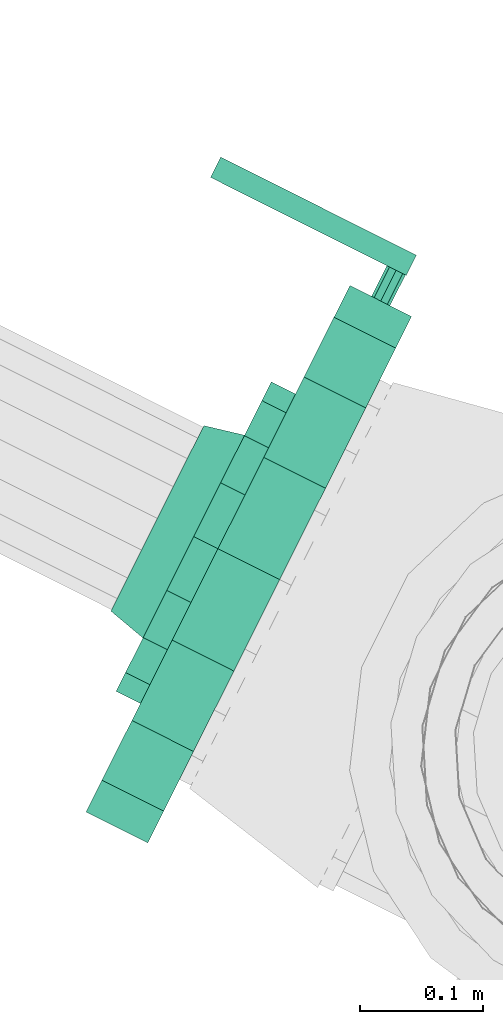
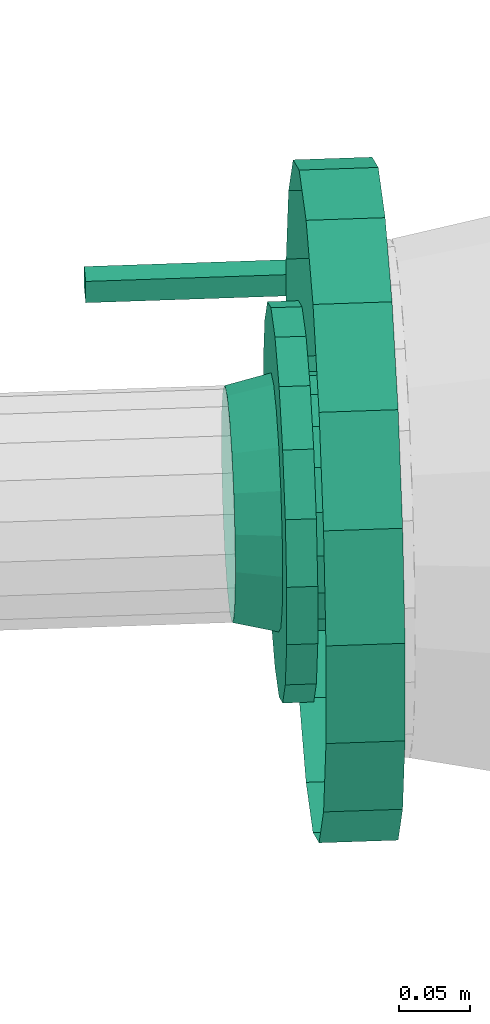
# One storey, part 75 of 152: 1 flow controller, 1 flow fitting.
"""IFC2X3 building model written with IfcOpenShell, lengths in metres."""

import ifcopenshell
import ifcopenshell.guid

model = None  # the IFC model being written
_history = None  # IfcOwnerHistory: only IFC2X3 demands one
_inside = {}  # id of a spatial element -> (the spatial element, [elements in it])
_under = {}  # id of a project, library or spatial element -> (it, [spatial elements below it])
_declared = {}  # id of a project -> (the project, [libraries it declares])
_typed = {}  # id of a type object -> (the type object, [elements of that type])
_made_of = {}  # id of a material, layer set ... -> (it, [elements and type objects made of it])


def new_model(schema):
    """Start an empty IFC model of exactly this schema.

    Asked for "IFC4X3", IfcOpenShell would pick the latest addendum, in which some entities
    have other attributes; the version numbers below select the first issue.
    IFC2X3 requires an IfcOwnerHistory on every rooted entity: one is made here for all.
    """
    global model, _history
    if schema == "IFC4X3":
        model = ifcopenshell.file(schema_version=(4, 3, 0, 0))
    else:
        model = ifcopenshell.file(schema=schema)
    _inside.clear()
    _under.clear()
    _declared.clear()
    _typed.clear()
    _made_of.clear()
    _history = None
    if model.schema == "IFC2X3":
        org = make("IfcOrganization", Name="unknown")
        user = make(
            "IfcPersonAndOrganization",
            ThePerson=make("IfcPerson", FamilyName="unknown"),
            TheOrganization=org,
        )
        app = make(
            "IfcApplication",
            ApplicationDeveloper=org,
            Version="unknown",
            ApplicationFullName="unknown",
            ApplicationIdentifier="unknown",
        )
        _history = make(
            "IfcOwnerHistory",
            OwningUser=user,
            OwningApplication=app,
            ChangeAction="ADDED",
            CreationDate=0,
        )
    return model


def make(cls, **values):
    """One entity of the class cls with the attributes given. An attribute that is None is left unset."""
    return model.create_entity(
        cls, **{name: value for name, value in values.items() if value is not None}
    )


def rooted(cls, **values):
    """An entity with a GlobalId (a new one), such as an element, a storey or a relation."""
    return make(cls, GlobalId=ifcopenshell.guid.new(), OwnerHistory=_history, **values)


def si_unit(unit_type, name, prefix=None):
    """IfcSIUnit, for example si_unit("LENGTHUNIT", "METRE", prefix="MILLI")."""
    return make("IfcSIUnit", UnitType=unit_type, Prefix=prefix, Name=name)


def derived_unit(unit_type, elements):
    """IfcDerivedUnit: a product of units, each with its exponent."""
    return make(
        "IfcDerivedUnit",
        Elements=[
            make("IfcDerivedUnitElement", Unit=unit, Exponent=power)
            for unit, power in elements
        ],
        UnitType=unit_type,
    )


def assignment(units):
    """IfcUnitAssignment: the units of a project."""
    return None if units is None else make("IfcUnitAssignment", Units=units)


def point(xyz):
    """IfcCartesianPoint."""
    return None if xyz is None else make("IfcCartesianPoint", Coordinates=xyz)


def direction(xyz):
    """IfcDirection."""
    return None if xyz is None else make("IfcDirection", DirectionRatios=xyz)


def frame(location, z_axis=None, x_axis=None):
    """IfcAxis2Placement3D, a coordinate frame: its origin and axes. An axis left out is left unset."""
    return make(
        "IfcAxis2Placement3D",
        Location=point(location),
        Axis=direction(z_axis),
        RefDirection=direction(x_axis),
    )


def origin():
    """The frame at (0, 0, 0) with its axes left unset."""
    return frame((0.0, 0.0, 0.0))


def place(relative_to, where):
    """IfcLocalPlacement: puts the frame where relative to a parent placement (None: the world)."""
    return make(
        "IfcLocalPlacement", PlacementRelTo=relative_to, RelativePlacement=where
    )


def context(
    kind, dimensions, precision=None, world=None, true_north=None, identifier=None
):
    """IfcGeometricRepresentationContext, for example the 3D "Model" context."""
    return make(
        "IfcGeometricRepresentationContext",
        ContextIdentifier=identifier,
        ContextType=kind,
        CoordinateSpaceDimension=dimensions,
        Precision=precision,
        WorldCoordinateSystem=world,
        TrueNorth=true_north,
    )


def subcontext(parent, identifier, kind, view, scale=None):
    """IfcGeometricRepresentationSubContext, for example "Body" below "Model"."""
    return make(
        "IfcGeometricRepresentationSubContext",
        ContextIdentifier=identifier,
        ContextType=kind,
        ParentContext=parent,
        TargetScale=scale,
        TargetView=view,
    )


def project(units=None, contexts=None):
    """IfcProject with its units and contexts."""
    return rooted(
        "IfcProject",
        Name="project",
        RepresentationContexts=contexts,
        UnitsInContext=assignment(units),
    )


def spatial(cls, under=None, at=None, **own):
    """A site, building, storey or space (cls), placed at a placement, below another one or the project."""
    s = rooted(cls, ObjectPlacement=at, **own)
    if under is not None:
        _under.setdefault(under.id(), (under, []))[1].append(s)
    return s


def faces_of(points, faces, orient=None, outer=None):
    """IfcFace entities. A face is a list of loops; a loop is a list of indices into points, from 0.

    orient and outer hold one flag for each loop. By default every Orientation is true, the
    first loop of a face is its IfcFaceOuterBound and the others are IfcFaceBound.
    """
    made = []
    for i, loops in enumerate(faces):
        bounds = []
        for j, loop in enumerate(loops):
            is_outer = j == 0 if outer is None else outer[i][j]
            bounds.append(
                make(
                    "IfcFaceOuterBound" if is_outer else "IfcFaceBound",
                    Bound=make("IfcPolyLoop", Polygon=[points[k] for k in loop]),
                    Orientation=True if orient is None else orient[i][j],
                )
            )
        made.append(make("IfcFace", Bounds=bounds))
    return made


def face_set(faces, orient=None, outer=None):
    """The faces of one IfcConnectedFaceSet. surface_model builds it on its shared points."""
    return ("IfcConnectedFaceSet", faces, orient, outer)


def surface_model(cls, points, shells):
    """IfcFaceBasedSurfaceModel or IfcShellBasedSurfaceModel (cls): surfaces that need not close."""
    shared = [point(p) for p in points]
    made = [make(c, CfsFaces=faces_of(shared, fs, o, b)) for c, fs, o, b in shells]
    if cls == "IfcFaceBasedSurfaceModel":
        return make(cls, FbsmFaces=made)
    return make(cls, SbsmBoundary=made)


def shape(context_of_items, identifier, shape_type, items):
    """IfcShapeRepresentation: the items that make up one representation, for example the "Body"."""
    return make(
        "IfcShapeRepresentation",
        ContextOfItems=context_of_items,
        RepresentationIdentifier=identifier,
        RepresentationType=shape_type,
        Items=items,
    )


def source(mapping_origin, context_of_items, identifier, shape_type, items):
    """IfcRepresentationMap: a shape defined once, which mapped items show again and again."""
    return make(
        "IfcRepresentationMap",
        MappingOrigin=mapping_origin,
        MappedRepresentation=shape(context_of_items, identifier, shape_type, items),
    )


def transform(
    local_origin,
    x_axis=None,
    y_axis=None,
    z_axis=None,
    scale=None,
    scale2=None,
    scale3=None,
    uniform=True,
):
    """IfcCartesianTransformationOperator3D, or its non-uniform kind. x_axis, y_axis, z_axis: its Axis1, 2, 3."""
    if uniform:
        return make(
            "IfcCartesianTransformationOperator3D",
            Axis1=direction(x_axis),
            Axis2=direction(y_axis),
            LocalOrigin=point(local_origin),
            Scale=scale,
            Axis3=direction(z_axis),
        )
    return make(
        "IfcCartesianTransformationOperator3DnonUniform",
        Axis1=direction(x_axis),
        Axis2=direction(y_axis),
        LocalOrigin=point(local_origin),
        Scale=scale,
        Axis3=direction(z_axis),
        Scale2=scale2,
        Scale3=scale3,
    )


def mapped(mapping_source, mapping_target):
    """IfcMappedItem: shows the shape of a source again, moved by a transform."""
    return make(
        "IfcMappedItem", MappingSource=mapping_source, MappingTarget=mapping_target
    )


def material(Name=None, Category=None):
    """IfcMaterial."""
    return make("IfcMaterial", Name=Name, Category=Category)


def made_of(thing, what):
    """Note that an element or type object is made of a material, layer set ...; save() writes the relation."""
    if what is not None:
        _made_of.setdefault(what.id(), (what, []))[1].append(thing)
    return thing


def type_object(cls, material=None, **own):
    """A type object (cls), such as IfcWallType, which elements share."""
    return made_of(rooted(cls, **own), material)


def type_shapes(of_type, sources):
    """Give a type object the sources (RepresentationMaps) that its elements show as mapped items."""
    of_type.RepresentationMaps = sources


def element(
    cls,
    number,
    at=None,
    inside=None,
    cuts=None,
    type_object=None,
    material=None,
    context=None,
    identifier="Body",
    shape_type=None,
    held_by="IfcProductDefinitionShape",
    body=None,
    shapes=None,
    **own,
):
    """One element of the class cls, such as IfcWall. Its Tag is "e" and its number.

    at: its placement. inside: the storey or other place that contains it. cuts: it is an
    opening in that element (IfcRelVoidsElement). A single representation is given by context,
    identifier, shape_type and body (its items); several are given by shapes. held_by: the class
    of the entity that holds the representations. save() writes the other relations.
    """
    e = rooted(cls, Tag="e%d" % number, ObjectPlacement=at, **own)
    if body is not None:
        shapes = [shape(context, identifier, shape_type, body)]
    if shapes is not None:
        e.Representation = make(held_by, Representations=shapes)
    if inside is not None:
        _inside.setdefault(inside.id(), (inside, []))[1].append(e)
    if cuts is not None:
        rooted(
            "IfcRelVoidsElement", RelatingBuildingElement=cuts, RelatedOpeningElement=e
        )
    if type_object is not None:
        _typed.setdefault(type_object.id(), (type_object, []))[1].append(e)
    return made_of(e, material)


def aggregate(whole, parts):
    """IfcRelAggregates: a whole, such as a stair, and the parts it consists of."""
    return rooted("IfcRelAggregates", RelatingObject=whole, RelatedObjects=parts)


def save(model, path):
    """Write the relations noted so far, then the file.

    IfcRelAggregates (storeys below a building ...), IfcRelContainedInSpatialStructure (elements
    in a storey), IfcRelDefinesByType, IfcRelAssociatesMaterial and IfcRelDeclares: one each for
    every whole, place, type object, material and project.
    """
    for whole, parts in _under.values():
        aggregate(whole, parts)
    for where, things in _inside.values():
        rooted(
            "IfcRelContainedInSpatialStructure",
            RelatedElements=things,
            RelatingStructure=where,
        )
    for kind, things in _typed.values():
        rooted("IfcRelDefinesByType", RelatedObjects=things, RelatingType=kind)
    for what, things in _made_of.values():
        rooted("IfcRelAssociatesMaterial", RelatedObjects=things, RelatingMaterial=what)
    for by, libraries in _declared.values():
        rooted("IfcRelDeclares", RelatingContext=by, RelatedDefinitions=libraries)
    model.write(path)


model = new_model("IFC2X3")

# Units and contexts
model_context = context("Model", 3, precision=5.2338327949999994e-05, world=origin(), true_north=direction((0.0, 1.0)))
body_context = subcontext(model_context, "Body", "Model", "MODEL_VIEW")
ifc_project = project(units=[si_unit("LENGTHUNIT", "METRE"), si_unit("AREAUNIT", "SQUARE_METRE"), si_unit("VOLUMEUNIT", "CUBIC_METRE"), si_unit("MASSUNIT", "GRAM", prefix="KILO"), si_unit("PLANEANGLEUNIT", "RADIAN"), derived_unit("THERMALTRANSMITTANCEUNIT", [(si_unit("MASSUNIT", "GRAM", prefix="KILO"), 1), (si_unit("THERMODYNAMICTEMPERATUREUNIT", "KELVIN"), -1), (si_unit("TIMEUNIT", "SECOND"), -3)])], contexts=[model_context])

# Site, building, storey
site_placement = place(None, frame((0.0, 0.0, 0.0), z_axis=(0.0, 0.0, 1.0), x_axis=(0.8939966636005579, -0.4480736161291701, 0.0)))
site = spatial("IfcSite", under=ifc_project, at=site_placement, Name="Default", CompositionType="ELEMENT")
building_placement = place(site_placement, origin())
building = spatial("IfcBuilding", under=site, at=building_placement, CompositionType="ELEMENT")
storey_placement = place(building_placement, frame((0.0, 0.0, 2.7499999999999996)))
storey = spatial("IfcBuildingStorey", under=building, at=storey_placement, Name="1. Obergeschoss", CompositionType="ELEMENT", Elevation=2.7499999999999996)

# Flow controller
ifc_material = material(Name="IfcSurfaceStyle #1741")
distribution_element_type_1 = type_object("IfcDistributionElementType", Name="Zwischenflanschklappe 623319:Zwischenflanschklappe 623319", material=ifc_material)
shared_shape_1 = source(origin(), body_context, "Body", "SurfaceModel", [
    surface_model("IfcFaceBasedSurfaceModel", [(22.558553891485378, 8.717883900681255, 5.1137972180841), (22.736053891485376, 8.717883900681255, 5.1137972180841), (22.736053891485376, 8.717883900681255, 5.1321972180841), (22.558553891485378, 8.717883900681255, 5.1321972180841), (22.736053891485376, 8.736283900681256, 5.1321972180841), (22.558553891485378, 8.736283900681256, 5.1321972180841), (22.736053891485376, 8.736283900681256, 5.1137972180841), (22.558553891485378, 8.736283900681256, 5.1137972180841), (22.69885389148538, 8.451283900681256, 5.2149972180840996), (22.69885389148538, 8.419818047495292, 5.2094489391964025), (22.71752055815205, 8.419818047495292, 5.2094489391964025), (22.71752055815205, 8.451283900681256, 5.2149972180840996), (22.69885389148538, 8.392147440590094, 5.193473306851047), (22.71752055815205, 8.392147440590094, 5.193473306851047), (22.69885389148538, 8.371609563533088, 5.1689972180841), (22.71752055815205, 8.371609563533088, 5.1689972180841), (22.69885389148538, 8.360681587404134, 5.1389728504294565), (22.71752055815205, 8.360681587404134, 5.1389728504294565), (22.69885389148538, 8.360681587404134, 5.1070215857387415), (22.71752055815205, 8.360681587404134, 5.1070215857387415), (22.69885389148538, 8.371609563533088, 5.0769972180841), (22.71752055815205, 8.371609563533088, 5.0769972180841), (22.69885389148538, 8.392147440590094, 5.052521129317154), (22.71752055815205, 8.392147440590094, 5.052521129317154), (22.69885389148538, 8.419818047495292, 5.036545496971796), (22.71752055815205, 8.419818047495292, 5.036545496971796), (22.69885389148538, 8.451283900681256, 5.0309972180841), (22.71752055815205, 8.451283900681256, 5.0309972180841), (22.69885389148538, 8.482749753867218, 5.036545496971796), (22.71752055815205, 8.482749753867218, 5.036545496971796), (22.69885389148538, 8.510420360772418, 5.052521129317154), (22.71752055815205, 8.510420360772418, 5.052521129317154), (22.69885389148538, 8.530958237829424, 5.0769972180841), (22.71752055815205, 8.530958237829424, 5.0769972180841), (22.69885389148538, 8.541886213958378, 5.1070215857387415), (22.71752055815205, 8.541886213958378, 5.1070215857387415), (22.69885389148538, 8.541886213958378, 5.1389728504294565), (22.71752055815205, 8.541886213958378, 5.1389728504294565), (22.69885389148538, 8.530958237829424, 5.1689972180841), (22.71752055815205, 8.530958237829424, 5.1689972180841), (22.69885389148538, 8.510420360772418, 5.193473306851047), (22.71752055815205, 8.510420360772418, 5.193473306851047), (22.69885389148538, 8.482749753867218, 5.209448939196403), (22.71752055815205, 8.482749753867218, 5.209448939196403), (22.698853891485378, 8.451283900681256, 5.1229972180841), (22.71752055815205, 8.451283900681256, 5.1229972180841), (22.71752055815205, 8.451283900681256, 5.2654972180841), (22.71752055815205, 8.402546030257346, 5.256903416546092), (22.736187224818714, 8.402546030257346, 5.256903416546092), (22.736187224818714, 8.451283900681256, 5.2654972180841), (22.71752055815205, 8.359686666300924, 5.232158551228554), (22.736187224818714, 8.359686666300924, 5.232158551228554), (22.71752055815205, 8.327875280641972, 5.1942472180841), (22.736187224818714, 8.327875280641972, 5.1942472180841), (22.71752055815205, 8.310948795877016, 5.147742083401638), (22.736187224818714, 8.310948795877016, 5.147742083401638), (22.71752055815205, 8.310948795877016, 5.098252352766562), (22.736187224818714, 8.310948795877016, 5.098252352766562), (22.71752055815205, 8.327875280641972, 5.0517472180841), (22.736187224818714, 8.327875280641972, 5.0517472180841), (22.71752055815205, 8.359686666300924, 5.013835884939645), (22.736187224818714, 8.359686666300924, 5.013835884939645), (22.71752055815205, 8.402546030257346, 4.989091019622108), (22.736187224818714, 8.402546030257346, 4.989091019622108), (22.71752055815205, 8.451283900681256, 4.9804972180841), (22.736187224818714, 8.451283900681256, 4.9804972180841), (22.71752055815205, 8.500021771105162, 4.989091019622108), (22.736187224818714, 8.500021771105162, 4.989091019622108), (22.71752055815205, 8.542881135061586, 5.0138358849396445), (22.736187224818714, 8.542881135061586, 5.0138358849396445), (22.71752055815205, 8.57469252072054, 5.0517472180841), (22.736187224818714, 8.57469252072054, 5.0517472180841), (22.71752055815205, 8.591619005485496, 5.098252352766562), (22.736187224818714, 8.591619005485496, 5.098252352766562), (22.71752055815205, 8.591619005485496, 5.147742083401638), (22.736187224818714, 8.591619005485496, 5.147742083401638), (22.71752055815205, 8.57469252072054, 5.1942472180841), (22.736187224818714, 8.57469252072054, 5.1942472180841), (22.71752055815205, 8.542881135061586, 5.232158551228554), (22.736187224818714, 8.542881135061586, 5.232158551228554), (22.71752055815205, 8.500021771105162, 5.256903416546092), (22.736187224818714, 8.500021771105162, 5.256903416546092), (22.736187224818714, 8.451283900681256, 5.1229972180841), (22.736187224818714, 8.451283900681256, 5.2149972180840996), (22.736187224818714, 8.419818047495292, 5.2094489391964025), (22.754853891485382, 8.419818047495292, 5.2094489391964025), (22.754853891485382, 8.451283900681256, 5.2149972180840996), (22.736187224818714, 8.392147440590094, 5.193473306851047), (22.754853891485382, 8.392147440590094, 5.193473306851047), (22.736187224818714, 8.371609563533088, 5.1689972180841), (22.754853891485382, 8.371609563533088, 5.1689972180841), (22.736187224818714, 8.360681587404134, 5.1389728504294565), (22.754853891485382, 8.360681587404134, 5.1389728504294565), (22.736187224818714, 8.360681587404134, 5.1070215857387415), (22.754853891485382, 8.360681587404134, 5.1070215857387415), (22.736187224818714, 8.371609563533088, 5.0769972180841), (22.754853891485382, 8.371609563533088, 5.0769972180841), (22.736187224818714, 8.392147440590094, 5.052521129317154), (22.754853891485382, 8.392147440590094, 5.052521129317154), (22.736187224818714, 8.419818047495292, 5.036545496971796), (22.754853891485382, 8.419818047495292, 5.036545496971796), (22.736187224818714, 8.451283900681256, 5.0309972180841), (22.754853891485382, 8.451283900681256, 5.0309972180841), (22.736187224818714, 8.482749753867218, 5.036545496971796), (22.754853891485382, 8.482749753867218, 5.036545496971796), (22.736187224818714, 8.510420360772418, 5.052521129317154), (22.754853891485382, 8.510420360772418, 5.052521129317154), (22.736187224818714, 8.530958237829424, 5.0769972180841), (22.754853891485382, 8.530958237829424, 5.0769972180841), (22.736187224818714, 8.541886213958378, 5.1070215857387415), (22.754853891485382, 8.541886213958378, 5.1070215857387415), (22.736187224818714, 8.541886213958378, 5.1389728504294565), (22.754853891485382, 8.541886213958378, 5.1389728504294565), (22.736187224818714, 8.530958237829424, 5.1689972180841), (22.754853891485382, 8.530958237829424, 5.1689972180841), (22.736187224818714, 8.510420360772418, 5.193473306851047), (22.754853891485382, 8.510420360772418, 5.193473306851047), (22.736187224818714, 8.482749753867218, 5.209448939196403), (22.754853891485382, 8.482749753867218, 5.209448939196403), (22.754853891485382, 8.451283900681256, 5.1229972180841), (22.72685389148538, 8.451283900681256, 5.132330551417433), (22.73004607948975, 8.451283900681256, 5.131767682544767), (22.73004607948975, 8.655833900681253, 5.131767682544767), (22.72685389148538, 8.655833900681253, 5.132330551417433), (22.732853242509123, 8.451283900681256, 5.130146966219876), (22.732853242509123, 8.655833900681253, 5.130146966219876), (22.734936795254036, 8.451283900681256, 5.127663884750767), (22.734936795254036, 8.655833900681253, 5.127663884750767), (22.736045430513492, 8.451283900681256, 5.12461793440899), (22.736045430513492, 8.655833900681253, 5.12461793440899), (22.736045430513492, 8.451283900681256, 5.121376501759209), (22.736045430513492, 8.655833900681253, 5.121376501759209), (22.734936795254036, 8.451283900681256, 5.118330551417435), (22.734936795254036, 8.655833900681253, 5.118330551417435), (22.732853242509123, 8.451283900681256, 5.115847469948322), (22.732853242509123, 8.655833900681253, 5.115847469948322), (22.73004607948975, 8.451283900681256, 5.114226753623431), (22.73004607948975, 8.655833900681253, 5.114226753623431), (22.72685389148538, 8.451283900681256, 5.113663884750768), (22.72685389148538, 8.655833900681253, 5.113663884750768), (22.723661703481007, 8.451283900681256, 5.1142267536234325), (22.723661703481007, 8.655833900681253, 5.1142267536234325), (22.72085454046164, 8.451283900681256, 5.115847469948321), (22.72085454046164, 8.655833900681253, 5.115847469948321), (22.718770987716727, 8.451283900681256, 5.118330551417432), (22.718770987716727, 8.655833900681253, 5.118330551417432), (22.717662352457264, 8.451283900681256, 5.121376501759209), (22.717662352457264, 8.655833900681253, 5.121376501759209), (22.717662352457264, 8.451283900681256, 5.124617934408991), (22.717662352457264, 8.655833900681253, 5.124617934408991), (22.718770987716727, 8.451283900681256, 5.127663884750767), (22.718770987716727, 8.655833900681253, 5.127663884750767), (22.72085454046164, 8.451283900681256, 5.130146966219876), (22.72085454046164, 8.655833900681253, 5.130146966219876), (22.723661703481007, 8.451283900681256, 5.131767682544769), (22.723661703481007, 8.655833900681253, 5.131767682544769), (22.72685389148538, 8.451283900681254, 5.1229972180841), (22.72685389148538, 8.655833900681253, 5.1229972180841), (22.72685389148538, 8.655833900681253, 5.1314122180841), (22.732804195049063, 8.655833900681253, 5.128947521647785), (22.732804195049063, 8.717883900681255, 5.128947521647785), (22.72685389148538, 8.717883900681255, 5.1314122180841), (22.735268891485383, 8.655833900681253, 5.122997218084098), (22.735268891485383, 8.717883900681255, 5.122997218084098), (22.732804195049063, 8.655833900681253, 5.117046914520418), (22.732804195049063, 8.717883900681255, 5.117046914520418), (22.72685389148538, 8.655833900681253, 5.114582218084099), (22.72685389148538, 8.717883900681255, 5.114582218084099), (22.720903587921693, 8.655833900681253, 5.117046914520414), (22.720903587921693, 8.717883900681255, 5.117046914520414), (22.71843889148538, 8.655833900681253, 5.1229972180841), (22.71843889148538, 8.717883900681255, 5.1229972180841), (22.720903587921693, 8.655833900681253, 5.128947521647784), (22.720903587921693, 8.717883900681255, 5.128947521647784), (22.72685389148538, 8.717883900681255, 5.1229972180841), (22.69885389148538, 8.451283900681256, 5.3654972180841), (22.69885389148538, 8.36834401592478, 5.350872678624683), (22.754853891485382, 8.36834401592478, 5.350872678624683), (22.754853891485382, 8.451283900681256, 5.3654972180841), (22.69885389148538, 8.295407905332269, 5.3087629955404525), (22.754853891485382, 8.295407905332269, 5.3087629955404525), (22.69885389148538, 8.241272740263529, 5.2442472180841), (22.754853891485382, 8.241272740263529, 5.2442472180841), (22.69885389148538, 8.212468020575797, 5.165106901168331), (22.754853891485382, 8.212468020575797, 5.165106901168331), (22.69885389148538, 8.212468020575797, 5.080887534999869), (22.754853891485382, 8.212468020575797, 5.080887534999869), (22.69885389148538, 8.241272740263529, 5.001747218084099), (22.754853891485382, 8.241272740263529, 5.001747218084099), (22.69885389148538, 8.295407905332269, 4.937231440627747), (22.754853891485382, 8.295407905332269, 4.937231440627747), (22.69885389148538, 8.36834401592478, 4.895121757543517), (22.754853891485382, 8.36834401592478, 4.895121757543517), (22.69885389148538, 8.451283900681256, 4.8804972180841), (22.754853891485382, 8.451283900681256, 4.8804972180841), (22.69885389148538, 8.53422378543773, 4.895121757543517), (22.754853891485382, 8.53422378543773, 4.895121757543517), (22.69885389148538, 8.607159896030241, 4.937231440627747), (22.754853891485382, 8.607159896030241, 4.937231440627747), (22.69885389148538, 8.661295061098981, 5.001747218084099), (22.754853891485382, 8.661295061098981, 5.001747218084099), (22.69885389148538, 8.690099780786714, 5.080887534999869), (22.754853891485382, 8.690099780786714, 5.080887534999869), (22.69885389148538, 8.690099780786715, 5.165106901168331), (22.754853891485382, 8.690099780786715, 5.165106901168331), (22.69885389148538, 8.661295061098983, 5.2442472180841), (22.754853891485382, 8.661295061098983, 5.2442472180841), (22.69885389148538, 8.607159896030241, 5.3087629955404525), (22.754853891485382, 8.607159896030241, 5.3087629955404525), (22.69885389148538, 8.53422378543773, 5.350872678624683), (22.754853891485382, 8.53422378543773, 5.350872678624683)], [face_set([[[0, 1, 2, 3]], [[3, 2, 4, 5]], [[5, 4, 6, 7]], [[7, 6, 1, 0]], [[0, 3, 5, 7]], [[6, 4, 2, 1]], [[8, 9, 10, 11]], [[9, 12, 13, 10]], [[12, 14, 15, 13]], [[14, 16, 17, 15]], [[16, 18, 19, 17]], [[18, 20, 21, 19]], [[20, 22, 23, 21]], [[22, 24, 25, 23]], [[24, 26, 27, 25]], [[26, 28, 29, 27]], [[28, 30, 31, 29]], [[30, 32, 33, 31]], [[32, 34, 35, 33]], [[34, 36, 37, 35]], [[36, 38, 39, 37]], [[38, 40, 41, 39]], [[40, 42, 43, 41]], [[42, 8, 11, 43]], [[44, 9, 8]], [[44, 12, 9]], [[44, 14, 12]], [[44, 16, 14]], [[44, 18, 16]], [[44, 20, 18]], [[44, 22, 20]], [[44, 24, 22]], [[44, 26, 24]], [[44, 28, 26]], [[44, 30, 28]], [[44, 32, 30]], [[44, 34, 32]], [[44, 36, 34]], [[44, 38, 36]], [[44, 40, 38]], [[44, 42, 40]], [[44, 8, 42]], [[45, 43, 11]], [[45, 41, 43]], [[45, 39, 41]], [[45, 37, 39]], [[45, 35, 37]], [[45, 33, 35]], [[45, 31, 33]], [[45, 29, 31]], [[45, 27, 29]], [[45, 25, 27]], [[45, 23, 25]], [[45, 21, 23]], [[45, 19, 21]], [[45, 17, 19]], [[45, 15, 17]], [[45, 13, 15]], [[45, 10, 13]], [[45, 11, 10]], [[46, 47, 48, 49]], [[47, 50, 51, 48]], [[50, 52, 53, 51]], [[52, 54, 55, 53]], [[54, 56, 57, 55]], [[56, 58, 59, 57]], [[58, 60, 61, 59]], [[60, 62, 63, 61]], [[62, 64, 65, 63]], [[64, 66, 67, 65]], [[66, 68, 69, 67]], [[68, 70, 71, 69]], [[70, 72, 73, 71]], [[72, 74, 75, 73]], [[74, 76, 77, 75]], [[76, 78, 79, 77]], [[78, 80, 81, 79]], [[80, 46, 49, 81]], [[45, 47, 46]], [[45, 50, 47]], [[45, 52, 50]], [[45, 54, 52]], [[45, 56, 54]], [[45, 58, 56]], [[45, 60, 58]], [[45, 62, 60]], [[45, 64, 62]], [[45, 66, 64]], [[45, 68, 66]], [[45, 70, 68]], [[45, 72, 70]], [[45, 74, 72]], [[45, 76, 74]], [[45, 78, 76]], [[45, 80, 78]], [[45, 46, 80]], [[82, 81, 49]], [[82, 79, 81]], [[82, 77, 79]], [[82, 75, 77]], [[82, 73, 75]], [[82, 71, 73]], [[82, 69, 71]], [[82, 67, 69]], [[82, 65, 67]], [[82, 63, 65]], [[82, 61, 63]], [[82, 59, 61]], [[82, 57, 59]], [[82, 55, 57]], [[82, 53, 55]], [[82, 51, 53]], [[82, 48, 51]], [[82, 49, 48]], [[83, 84, 85, 86]], [[84, 87, 88, 85]], [[87, 89, 90, 88]], [[89, 91, 92, 90]], [[91, 93, 94, 92]], [[93, 95, 96, 94]], [[95, 97, 98, 96]], [[97, 99, 100, 98]], [[99, 101, 102, 100]], [[101, 103, 104, 102]], [[103, 105, 106, 104]], [[105, 107, 108, 106]], [[107, 109, 110, 108]], [[109, 111, 112, 110]], [[111, 113, 114, 112]], [[113, 115, 116, 114]], [[115, 117, 118, 116]], [[117, 83, 86, 118]], [[82, 84, 83]], [[82, 87, 84]], [[82, 89, 87]], [[82, 91, 89]], [[82, 93, 91]], [[82, 95, 93]], [[82, 97, 95]], [[82, 99, 97]], [[82, 101, 99]], [[82, 103, 101]], [[82, 105, 103]], [[82, 107, 105]], [[82, 109, 107]], [[82, 111, 109]], [[82, 113, 111]], [[82, 115, 113]], [[82, 117, 115]], [[82, 83, 117]], [[119, 118, 86]], [[119, 116, 118]], [[119, 114, 116]], [[119, 112, 114]], [[119, 110, 112]], [[119, 108, 110]], [[119, 106, 108]], [[119, 104, 106]], [[119, 102, 104]], [[119, 100, 102]], [[119, 98, 100]], [[119, 96, 98]], [[119, 94, 96]], [[119, 92, 94]], [[119, 90, 92]], [[119, 88, 90]], [[119, 85, 88]], [[119, 86, 85]], [[120, 121, 122, 123]], [[121, 124, 125, 122]], [[124, 126, 127, 125]], [[126, 128, 129, 127]], [[128, 130, 131, 129]], [[130, 132, 133, 131]], [[132, 134, 135, 133]], [[134, 136, 137, 135]], [[136, 138, 139, 137]], [[138, 140, 141, 139]], [[140, 142, 143, 141]], [[142, 144, 145, 143]], [[144, 146, 147, 145]], [[146, 148, 149, 147]], [[148, 150, 151, 149]], [[150, 152, 153, 151]], [[152, 154, 155, 153]], [[154, 120, 123, 155]], [[156, 121, 120]], [[156, 124, 121]], [[156, 126, 124]], [[156, 128, 126]], [[156, 130, 128]], [[156, 132, 130]], [[156, 134, 132]], [[156, 136, 134]], [[156, 138, 136]], [[156, 140, 138]], [[156, 142, 140]], [[156, 144, 142]], [[156, 146, 144]], [[156, 148, 146]], [[156, 150, 148]], [[156, 152, 150]], [[156, 154, 152]], [[156, 120, 154]], [[157, 155, 123]], [[157, 153, 155]], [[157, 151, 153]], [[157, 149, 151]], [[157, 147, 149]], [[157, 145, 147]], [[157, 143, 145]], [[157, 141, 143]], [[157, 139, 141]], [[157, 137, 139]], [[157, 135, 137]], [[157, 133, 135]], [[157, 131, 133]], [[157, 129, 131]], [[157, 127, 129]], [[157, 125, 127]], [[157, 122, 125]], [[157, 123, 122]], [[158, 159, 160, 161]], [[159, 162, 163, 160]], [[162, 164, 165, 163]], [[164, 166, 167, 165]], [[166, 168, 169, 167]], [[168, 170, 171, 169]], [[170, 172, 173, 171]], [[172, 158, 161, 173]], [[174, 173, 161]], [[174, 171, 173]], [[174, 169, 171]], [[174, 167, 169]], [[174, 165, 167]], [[174, 163, 165]], [[174, 160, 163]], [[174, 161, 160]], [[175, 176, 177, 178]], [[176, 179, 180, 177]], [[179, 181, 182, 180]], [[181, 183, 184, 182]], [[183, 185, 186, 184]], [[185, 187, 188, 186]], [[187, 189, 190, 188]], [[189, 191, 192, 190]], [[191, 193, 194, 192]], [[193, 195, 196, 194]], [[195, 197, 198, 196]], [[197, 199, 200, 198]], [[199, 201, 202, 200]], [[201, 203, 204, 202]], [[203, 205, 206, 204]], [[205, 207, 208, 206]], [[207, 209, 210, 208]], [[209, 175, 178, 210]]])]),
])
type_shapes(distribution_element_type_1, [shared_shape_1])
flow_controller_placement = place(storey_placement, frame((0.0, 0.0, -2.7499999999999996)))
element("IfcFlowController", 1, at=flow_controller_placement, inside=storey, type_object=distribution_element_type_1, material=ifc_material, Name="Zwischenflanschklappe", ObjectType="Zwischenflanschklappe", context=body_context, shape_type="MappedRepresentation", body=[
    mapped(shared_shape_1, transform((0.0, 0.0, 0.0), scale=1.0)),
])

# Flow fitting
distribution_element_type_2 = type_object("IfcDistributionElementType", Name="Flansch 623342:Flansch 623342", material=ifc_material)
shared_shape_2 = source(origin(), body_context, "Body", "SurfaceModel", [
    surface_model("IfcFaceBasedSurfaceModel", [(22.69885389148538, 8.451283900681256, 4.9804972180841), (22.69885389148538, 8.40254603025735, 4.989091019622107), (22.676853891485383, 8.40254603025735, 4.989091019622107), (22.676853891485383, 8.451283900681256, 4.9804972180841), (22.69885389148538, 8.359686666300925, 5.0138358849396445), (22.676853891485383, 8.359686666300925, 5.0138358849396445), (22.69885389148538, 8.32787528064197, 5.051747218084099), (22.676853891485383, 8.32787528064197, 5.051747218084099), (22.69885389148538, 8.310948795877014, 5.098252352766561), (22.676853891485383, 8.310948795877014, 5.098252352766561), (22.69885389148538, 8.310948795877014, 5.147742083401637), (22.676853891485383, 8.310948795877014, 5.147742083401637), (22.69885389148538, 8.32787528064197, 5.194247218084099), (22.676853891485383, 8.32787528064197, 5.194247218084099), (22.69885389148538, 8.359686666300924, 5.232158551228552), (22.676853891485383, 8.359686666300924, 5.232158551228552), (22.69885389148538, 8.402546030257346, 5.25690341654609), (22.676853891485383, 8.402546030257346, 5.25690341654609), (22.69885389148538, 8.451283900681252, 5.265497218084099), (22.676853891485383, 8.451283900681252, 5.265497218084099), (22.69885389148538, 8.50002177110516, 5.256903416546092), (22.676853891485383, 8.50002177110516, 5.256903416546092), (22.69885389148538, 8.542881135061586, 5.232158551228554), (22.676853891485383, 8.542881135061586, 5.232158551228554), (22.69885389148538, 8.574692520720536, 5.194247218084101), (22.676853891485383, 8.574692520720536, 5.194247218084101), (22.69885389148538, 8.591619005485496, 5.1477420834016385), (22.676853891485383, 8.591619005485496, 5.1477420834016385), (22.69885389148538, 8.591619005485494, 5.098252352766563), (22.676853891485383, 8.591619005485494, 5.098252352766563), (22.69885389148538, 8.57469252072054, 5.051747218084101), (22.676853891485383, 8.57469252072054, 5.051747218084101), (22.69885389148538, 8.542881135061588, 5.013835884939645), (22.676853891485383, 8.542881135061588, 5.013835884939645), (22.69885389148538, 8.500021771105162, 4.989091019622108), (22.676853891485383, 8.500021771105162, 4.989091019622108), (22.676853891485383, 8.451283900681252, 5.122997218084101), (22.676853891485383, 8.359283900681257, 5.122997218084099), (22.676853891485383, 8.364832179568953, 5.154463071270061), (22.64385389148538, 8.37220876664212, 5.151778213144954), (22.64385389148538, 8.367133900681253, 5.122997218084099), (22.676853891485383, 8.380807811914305, 5.182133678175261), (22.64385389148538, 8.386821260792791, 5.177087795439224), (22.676853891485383, 8.405283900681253, 5.202671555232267), (22.64385389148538, 8.409208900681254, 5.195873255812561), (22.676853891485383, 8.435308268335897, 5.2135995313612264), (22.64385389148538, 8.436671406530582, 5.2058687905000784), (22.676853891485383, 8.467259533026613, 5.213599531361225), (22.64385389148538, 8.465896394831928, 5.205868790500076), (22.676853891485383, 8.497283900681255, 5.202671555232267), (22.64385389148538, 8.493358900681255, 5.19587325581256), (22.676853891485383, 8.5217599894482, 5.182133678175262), (22.64385389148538, 8.515746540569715, 5.177087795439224), (22.676853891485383, 8.537735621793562, 5.1544630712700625), (22.64385389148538, 8.530359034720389, 5.151778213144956), (22.676853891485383, 8.543283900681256, 5.122997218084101), (22.64385389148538, 8.535433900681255, 5.122997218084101), (22.676853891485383, 8.53773562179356, 5.091531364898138), (22.64385389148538, 8.530359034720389, 5.094216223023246), (22.676853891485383, 8.5217599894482, 5.0638607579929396), (22.64385389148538, 8.515746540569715, 5.068906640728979), (22.676853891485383, 8.497283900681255, 5.043322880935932), (22.64385389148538, 8.493358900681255, 5.05012118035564), (22.676853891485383, 8.467259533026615, 5.032394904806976), (22.64385389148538, 8.465896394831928, 5.040125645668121), (22.676853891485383, 8.435308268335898, 5.032394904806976), (22.64385389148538, 8.436671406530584, 5.040125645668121), (22.676853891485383, 8.405283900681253, 5.043322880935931), (22.64385389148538, 8.409208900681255, 5.0501211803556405), (22.676853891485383, 8.380807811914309, 5.063860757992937), (22.64385389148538, 8.386821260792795, 5.068906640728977), (22.676853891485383, 8.364832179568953, 5.091531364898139), (22.64385389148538, 8.372208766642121, 5.0942162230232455)], [face_set([[[0, 1, 2, 3]], [[1, 4, 5, 2]], [[4, 6, 7, 5]], [[6, 8, 9, 7]], [[8, 10, 11, 9]], [[10, 12, 13, 11]], [[12, 14, 15, 13]], [[14, 16, 17, 15]], [[16, 18, 19, 17]], [[18, 20, 21, 19]], [[20, 22, 23, 21]], [[22, 24, 25, 23]], [[24, 26, 27, 25]], [[26, 28, 29, 27]], [[28, 30, 31, 29]], [[30, 32, 33, 31]], [[32, 34, 35, 33]], [[34, 0, 3, 35]], [[36, 35, 3]], [[36, 33, 35]], [[36, 31, 33]], [[36, 29, 31]], [[36, 27, 29]], [[36, 25, 27]], [[36, 23, 25]], [[36, 21, 23]], [[36, 19, 21]], [[36, 17, 19]], [[36, 15, 17]], [[36, 13, 15]], [[36, 11, 13]], [[36, 9, 11]], [[36, 7, 9]], [[36, 5, 7]], [[36, 2, 5]], [[36, 3, 2]], [[37, 38, 39, 40]], [[38, 41, 42, 39]], [[41, 43, 44, 42]], [[43, 45, 46, 44]], [[45, 47, 48, 46]], [[47, 49, 50, 48]], [[49, 51, 52, 50]], [[51, 53, 54, 52]], [[53, 55, 56, 54]], [[55, 57, 58, 56]], [[57, 59, 60, 58]], [[59, 61, 62, 60]], [[61, 63, 64, 62]], [[63, 65, 66, 64]], [[65, 67, 68, 66]], [[67, 69, 70, 68]], [[69, 71, 72, 70]], [[71, 37, 40, 72]]])]),
])
type_shapes(distribution_element_type_2, [shared_shape_2])
flow_fitting_placement = place(storey_placement, frame((0.0, 0.0, -2.7499999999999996)))
element("IfcFlowFitting", 2, at=flow_fitting_placement, inside=storey, type_object=distribution_element_type_2, material=ifc_material, Name="Flansch", ObjectType="Flansch", context=body_context, shape_type="MappedRepresentation", body=[
    mapped(shared_shape_2, transform((0.0, 0.0, 0.0), scale=1.0)),
])

save(model, "model.ifc")
